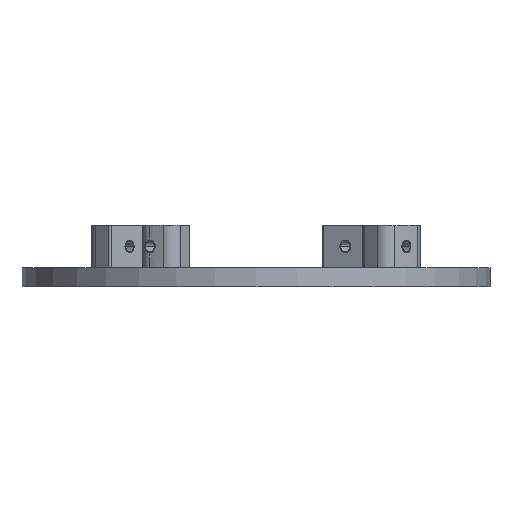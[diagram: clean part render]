
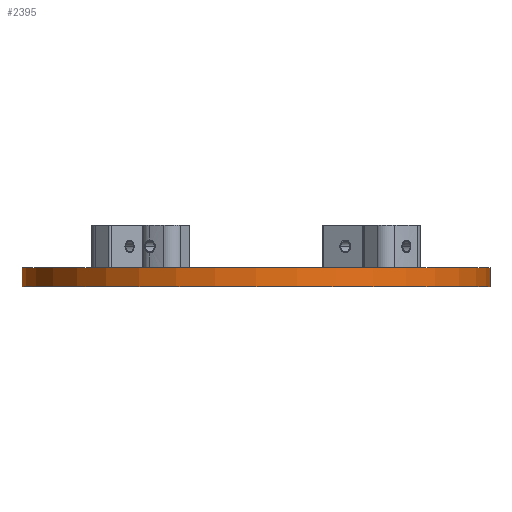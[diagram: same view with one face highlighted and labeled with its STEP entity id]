
A CAD part, left-side view. The second image highlights one B-rep face of the part: STEP entity #2395.
In plain terms, the highlighted cylindrical face has radius 55 mm (diameter 110 mm), a partial arc.
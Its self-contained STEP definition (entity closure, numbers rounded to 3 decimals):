
#338=CARTESIAN_POINT('',(0.,0.,0.));
#339=DIRECTION('',(0.,0.,1.));
#340=DIRECTION('',(0.,1.,0.));
#341=AXIS2_PLACEMENT_3D('',#338,#339,#340);
#606=DIRECTION('',(0.,0.,-1.));
#607=VECTOR('',#606,4.5);
#608=CARTESIAN_POINT('',(0.,-55.,0.));
#609=LINE('',#608,#607);
#613=DIRECTION('',(0.,0.,-1.));
#614=VECTOR('',#613,4.5);
#615=CARTESIAN_POINT('',(0.,55.,0.));
#616=LINE('',#615,#614);
#628=CARTESIAN_POINT('',(0.,0.,-4.5));
#629=DIRECTION('',(0.,0.,1.));
#630=DIRECTION('',(0.,1.,0.));
#631=AXIS2_PLACEMENT_3D('',#628,#629,#630);
#1946=CARTESIAN_POINT('',(0.,-55.,0.));
#1947=CARTESIAN_POINT('',(0.,55.,0.));
#1948=VERTEX_POINT('',#1946);
#1949=VERTEX_POINT('',#1947);
#1950=CARTESIAN_POINT('',(0.,-55.,-4.5));
#1951=CARTESIAN_POINT('',(0.,55.,-4.5));
#1952=VERTEX_POINT('',#1950);
#1953=VERTEX_POINT('',#1951);
#2383=CARTESIAN_POINT('',(0.,0.,0.));
#2384=DIRECTION('',(0.,0.,1.));
#2385=DIRECTION('',(0.,-1.,0.));
#2386=AXIS2_PLACEMENT_3D('',#2383,#2384,#2385);
#2387=CYLINDRICAL_SURFACE('',#2386,55.);
#2388=ORIENTED_EDGE('',*,*,#2213,.T.);
#2389=ORIENTED_EDGE('',*,*,#2366,.T.);
#2391=ORIENTED_EDGE('',*,*,#2390,.F.);
#2392=ORIENTED_EDGE('',*,*,#2362,.F.);
#2393=EDGE_LOOP('',(#2388,#2389,#2391,#2392));
#2394=FACE_OUTER_BOUND('',#2393,.F.);
#342=CIRCLE('',#341,55.);
#632=CIRCLE('',#631,55.);
#2213=EDGE_CURVE('',#1949,#1948,#342,.T.);
#2362=EDGE_CURVE('',#1949,#1953,#616,.T.);
#2366=EDGE_CURVE('',#1948,#1952,#609,.T.);
#2390=EDGE_CURVE('',#1953,#1952,#632,.T.);
#2395=ADVANCED_FACE('',(#2394),#2387,.T.);
